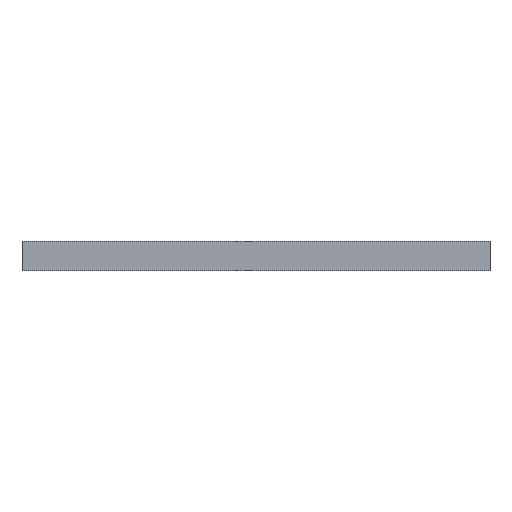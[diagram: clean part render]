
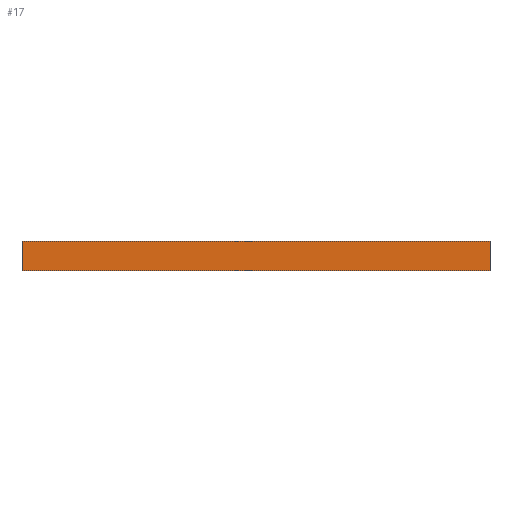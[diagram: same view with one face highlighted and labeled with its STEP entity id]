
A CAD part, left-side view. The second image highlights one B-rep face of the part: STEP entity #17.
In plain terms, the highlighted planar face has unit normal (-1, 0, 0).
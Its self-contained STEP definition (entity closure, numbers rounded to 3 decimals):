
#17 = ADVANCED_FACE('',(#18),#32,.T.);
#18 = FACE_BOUND('',#19,.T.);
#19 = EDGE_LOOP('',(#20,#55,#83,#111));
#20 = ORIENTED_EDGE('',*,*,#21,.F.);
#21 = EDGE_CURVE('',#22,#24,#26,.T.);
#22 = VERTEX_POINT('',#23);
#23 = CARTESIAN_POINT('',(-20.,-20.,-1.25));
#24 = VERTEX_POINT('',#25);
#25 = CARTESIAN_POINT('',(-20.,20.,-1.25));
#26 = SURFACE_CURVE('',#27,(#31,#43),.PCURVE_S1.);
#27 = LINE('',#28,#29);
#28 = CARTESIAN_POINT('',(-20.,-20.,-1.25));
#29 = VECTOR('',#30,1.);
#30 = DIRECTION('',(0.,1.,0.));
#31 = PCURVE('',#32,#37);
#32 = PLANE('',#33);
#33 = AXIS2_PLACEMENT_3D('',#34,#35,#36);
#34 = CARTESIAN_POINT('',(-20.,-20.,1.25));
#35 = DIRECTION('',(-1.,0.,0.));
#36 = DIRECTION('',(0.,0.,-1.));
#37 = DEFINITIONAL_REPRESENTATION('',(#38),#42);
#38 = LINE('',#39,#40);
#39 = CARTESIAN_POINT('',(2.5,0.));
#40 = VECTOR('',#41,1.);
#41 = DIRECTION('',(0.,-1.));
#42 = ( GEOMETRIC_REPRESENTATION_CONTEXT(2) 
PARAMETRIC_REPRESENTATION_CONTEXT() REPRESENTATION_CONTEXT('2D SPACE',''
  ) );
#43 = PCURVE('',#44,#49);
#44 = PLANE('',#45);
#45 = AXIS2_PLACEMENT_3D('',#46,#47,#48);
#46 = CARTESIAN_POINT('',(-8.041,-10.603,-1.25));
#47 = DIRECTION('',(-0.,0.,-1.));
#48 = DIRECTION('',(-1.,0.,0.));
#49 = DEFINITIONAL_REPRESENTATION('',(#50),#54);
#50 = LINE('',#51,#52);
#51 = CARTESIAN_POINT('',(11.959,-9.397));
#52 = VECTOR('',#53,1.);
#53 = DIRECTION('',(0.,1.));
#54 = ( GEOMETRIC_REPRESENTATION_CONTEXT(2) 
PARAMETRIC_REPRESENTATION_CONTEXT() REPRESENTATION_CONTEXT('2D SPACE',''
  ) );
#55 = ORIENTED_EDGE('',*,*,#56,.T.);
#56 = EDGE_CURVE('',#22,#57,#59,.T.);
#57 = VERTEX_POINT('',#58);
#58 = CARTESIAN_POINT('',(-20.,-20.,1.25));
#59 = SURFACE_CURVE('',#60,(#64,#71),.PCURVE_S1.);
#60 = LINE('',#61,#62);
#61 = CARTESIAN_POINT('',(-20.,-20.,-1.25));
#62 = VECTOR('',#63,1.);
#63 = DIRECTION('',(0.,0.,1.));
#64 = PCURVE('',#32,#65);
#65 = DEFINITIONAL_REPRESENTATION('',(#66),#70);
#66 = LINE('',#67,#68);
#67 = CARTESIAN_POINT('',(2.5,0.));
#68 = VECTOR('',#69,1.);
#69 = DIRECTION('',(-1.,-0.));
#70 = ( GEOMETRIC_REPRESENTATION_CONTEXT(2) 
PARAMETRIC_REPRESENTATION_CONTEXT() REPRESENTATION_CONTEXT('2D SPACE',''
  ) );
#71 = PCURVE('',#72,#77);
#72 = PLANE('',#73);
#73 = AXIS2_PLACEMENT_3D('',#74,#75,#76);
#74 = CARTESIAN_POINT('',(20.,-20.,1.25));
#75 = DIRECTION('',(0.,-1.,-0.));
#76 = DIRECTION('',(0.,0.,-1.));
#77 = DEFINITIONAL_REPRESENTATION('',(#78),#82);
#78 = LINE('',#79,#80);
#79 = CARTESIAN_POINT('',(2.5,-40.));
#80 = VECTOR('',#81,1.);
#81 = DIRECTION('',(-1.,0.));
#82 = ( GEOMETRIC_REPRESENTATION_CONTEXT(2) 
PARAMETRIC_REPRESENTATION_CONTEXT() REPRESENTATION_CONTEXT('2D SPACE',''
  ) );
#83 = ORIENTED_EDGE('',*,*,#84,.T.);
#84 = EDGE_CURVE('',#57,#85,#87,.T.);
#85 = VERTEX_POINT('',#86);
#86 = CARTESIAN_POINT('',(-20.,20.,1.25));
#87 = SURFACE_CURVE('',#88,(#92,#99),.PCURVE_S1.);
#88 = LINE('',#89,#90);
#89 = CARTESIAN_POINT('',(-20.,-20.,1.25));
#90 = VECTOR('',#91,1.);
#91 = DIRECTION('',(0.,1.,0.));
#92 = PCURVE('',#32,#93);
#93 = DEFINITIONAL_REPRESENTATION('',(#94),#98);
#94 = LINE('',#95,#96);
#95 = CARTESIAN_POINT('',(0.,-0.));
#96 = VECTOR('',#97,1.);
#97 = DIRECTION('',(0.,-1.));
#98 = ( GEOMETRIC_REPRESENTATION_CONTEXT(2) 
PARAMETRIC_REPRESENTATION_CONTEXT() REPRESENTATION_CONTEXT('2D SPACE',''
  ) );
#99 = PCURVE('',#100,#105);
#100 = PLANE('',#101);
#101 = AXIS2_PLACEMENT_3D('',#102,#103,#104);
#102 = CARTESIAN_POINT('',(-8.041,-14.933,1.25));
#103 = DIRECTION('',(0.,0.,1.));
#104 = DIRECTION('',(1.,0.,-0.));
#105 = DEFINITIONAL_REPRESENTATION('',(#106),#110);
#106 = LINE('',#107,#108);
#107 = CARTESIAN_POINT('',(-11.959,-5.067));
#108 = VECTOR('',#109,1.);
#109 = DIRECTION('',(0.,1.));
#110 = ( GEOMETRIC_REPRESENTATION_CONTEXT(2) 
PARAMETRIC_REPRESENTATION_CONTEXT() REPRESENTATION_CONTEXT('2D SPACE',''
  ) );
#111 = ORIENTED_EDGE('',*,*,#112,.F.);
#112 = EDGE_CURVE('',#24,#85,#113,.T.);
#113 = SURFACE_CURVE('',#114,(#118,#125),.PCURVE_S1.);
#114 = LINE('',#115,#116);
#115 = CARTESIAN_POINT('',(-20.,20.,-1.25));
#116 = VECTOR('',#117,1.);
#117 = DIRECTION('',(0.,0.,1.));
#118 = PCURVE('',#32,#119);
#119 = DEFINITIONAL_REPRESENTATION('',(#120),#124);
#120 = LINE('',#121,#122);
#121 = CARTESIAN_POINT('',(2.5,-40.));
#122 = VECTOR('',#123,1.);
#123 = DIRECTION('',(-1.,-0.));
#124 = ( GEOMETRIC_REPRESENTATION_CONTEXT(2) 
PARAMETRIC_REPRESENTATION_CONTEXT() REPRESENTATION_CONTEXT('2D SPACE',''
  ) );
#125 = PCURVE('',#126,#131);
#126 = PLANE('',#127);
#127 = AXIS2_PLACEMENT_3D('',#128,#129,#130);
#128 = CARTESIAN_POINT('',(-8.47,20.,-1.208));
#129 = DIRECTION('',(0.,1.,0.));
#130 = DIRECTION('',(0.,-0.,1.));
#131 = DEFINITIONAL_REPRESENTATION('',(#132),#136);
#132 = LINE('',#133,#134);
#133 = CARTESIAN_POINT('',(-0.042,-11.53));
#134 = VECTOR('',#135,1.);
#135 = DIRECTION('',(1.,0.));
#136 = ( GEOMETRIC_REPRESENTATION_CONTEXT(2) 
PARAMETRIC_REPRESENTATION_CONTEXT() REPRESENTATION_CONTEXT('2D SPACE',''
  ) );
